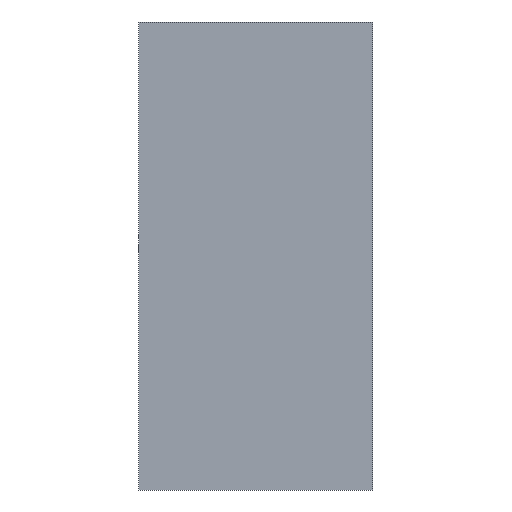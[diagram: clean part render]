
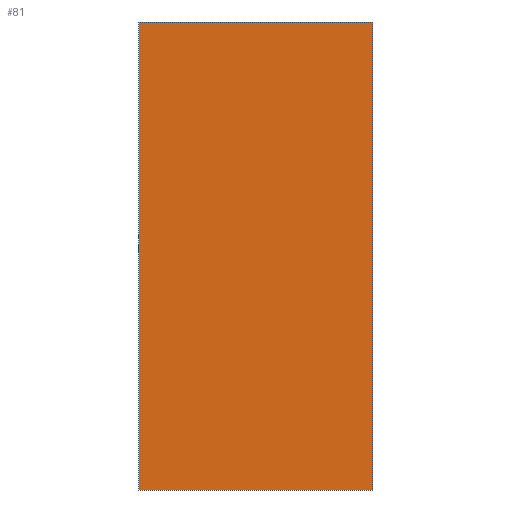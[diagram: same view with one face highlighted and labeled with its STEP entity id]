
A CAD part, front view. The second image highlights one B-rep face of the part: STEP entity #81.
In plain terms, the highlighted planar face has unit normal (0, -1, 0).
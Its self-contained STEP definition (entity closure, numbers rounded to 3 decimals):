
#2=DIRECTION('',(1.,0.,0.));
#3=VECTOR('',#2,7.);
#4=CARTESIAN_POINT('',(-3.5,0.,7.));
#5=LINE('',#4,#3);
#6=DIRECTION('',(0.,0.,-1.));
#7=VECTOR('',#6,14.);
#8=CARTESIAN_POINT('',(3.5,0.,7.));
#9=LINE('',#8,#7);
#10=DIRECTION('',(-1.,0.,0.));
#11=VECTOR('',#10,7.);
#12=CARTESIAN_POINT('',(3.5,0.,-7.));
#13=LINE('',#12,#11);
#14=DIRECTION('',(0.,0.,1.));
#15=VECTOR('',#14,14.);
#16=CARTESIAN_POINT('',(-3.5,0.,-7.));
#17=LINE('',#16,#15);
#50=CARTESIAN_POINT('',(-3.5,0.,7.));
#51=CARTESIAN_POINT('',(3.5,0.,7.));
#52=VERTEX_POINT('',#50);
#53=VERTEX_POINT('',#51);
#54=CARTESIAN_POINT('',(3.5,0.,-7.));
#55=VERTEX_POINT('',#54);
#56=CARTESIAN_POINT('',(-3.5,0.,-7.));
#57=VERTEX_POINT('',#56);
#66=CARTESIAN_POINT('',(0.,0.,0.));
#67=DIRECTION('',(0.,1.,0.));
#68=DIRECTION('',(1.,0.,0.));
#69=AXIS2_PLACEMENT_3D('',#66,#67,#68);
#70=PLANE('',#69);
#72=ORIENTED_EDGE('',*,*,#71,.T.);
#74=ORIENTED_EDGE('',*,*,#73,.T.);
#76=ORIENTED_EDGE('',*,*,#75,.T.);
#78=ORIENTED_EDGE('',*,*,#77,.T.);
#79=EDGE_LOOP('',(#72,#74,#76,#78));
#80=FACE_OUTER_BOUND('',#79,.F.);
#81=ADVANCED_FACE('',(#80),#70,.F.);
#71=EDGE_CURVE('',#52,#53,#5,.T.);
#73=EDGE_CURVE('',#53,#55,#9,.T.);
#75=EDGE_CURVE('',#55,#57,#13,.T.);
#77=EDGE_CURVE('',#57,#52,#17,.T.);
